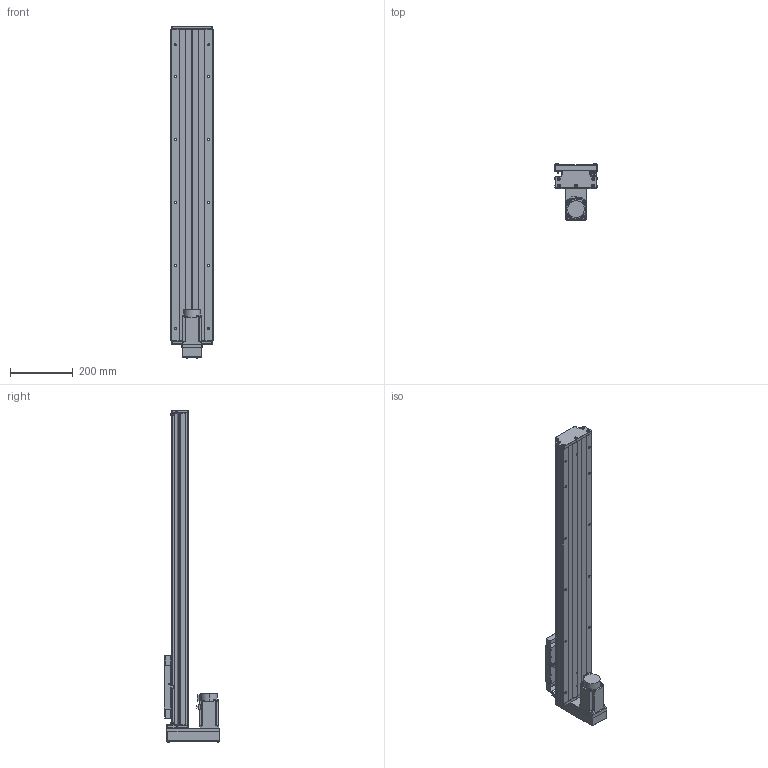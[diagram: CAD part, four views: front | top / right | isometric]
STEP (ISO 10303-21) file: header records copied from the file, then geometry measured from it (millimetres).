
FILE_DESCRIPTION (( 'STEP AP203' ), '1' );
FILE_NAME ('GTH14-750-BM-M40-C4.step', '2023-06-30T08:47:18', ( '微软用户' ), ( '微软中国' ), 'SwSTEP 2.0', 'SolidWorks 2020', '' );
FILE_SCHEMA (( 'CONFIG_CONTROL_DESIGN' ));
Length unit declared in the file: millimetre
Products named in the file (19): GBT 70.2-M3¡Á5_M3¡Á6; CTHA60-017; す晦芛蹟隊 M3℅5; GTH14-001_750; EE_SX911P_R; GTH14-033; HG-KN43J-S100; GTH14-002_GTH14-002; CTHA60-016; GTH14-750-BM-M40-C4; GBT 70.2-M4¡Á35_M4¡Á35; GTH14-004; GBT 70.1-M3℅5; GTH14-015-2_CTHA86-015-2; GTH14-005; GBT77-2000 M3×3; GB1155-6X6; GTH14-031; GBT70.1 M5℅16
Assembly tree (58 placements, depth 2):
  GTH14-750-BM-M40-C4
    GTH14-001_750
    GTH14-002_GTH14-002
    GTH14-004
    GTH14-005
    GB1155-6X6  x2
    GBT70.1 M5℅16  x10
    CTHA60-017  x3
    EE_SX911P_R  x3
    CTHA60-016  x2
    GBT 70.1-M3℅5  x6
    GBT77-2000 M3×3  x6
    GTH14-031
    GBT 70.2-M3¡Á5_M3¡Á6  x8
    す晦芛蹟隊 M3℅5  x6
    HG-KN43J-S100
    GBT 70.2-M4¡Á35_M4¡Á35  x4
    GTH14-015-2_CTHA86-015-2
    GTH14-033
Bounding box: 135 x 177.5 x 1054.2 mm (x, y, z)
Volume: 5764551.2 mm3; surface area: 956940.2 mm2
Topology: 61 solids, 61 shells, 2463 faces, 5857 edges, 3610 vertices
Faces by surface type: plane 1309, cylinder 664, cone 314, torus 124, sphere 32, bspline 20
Entity records: 44466 total; most frequent: CARTESIAN_POINT 9907, DIRECTION 6549, ORIENTED_EDGE 6404, EDGE_CURVE 3202, AXIS2_PLACEMENT_3D 2244, VECTOR 2061, LINE 2061, VERTEX_POINT 2028
